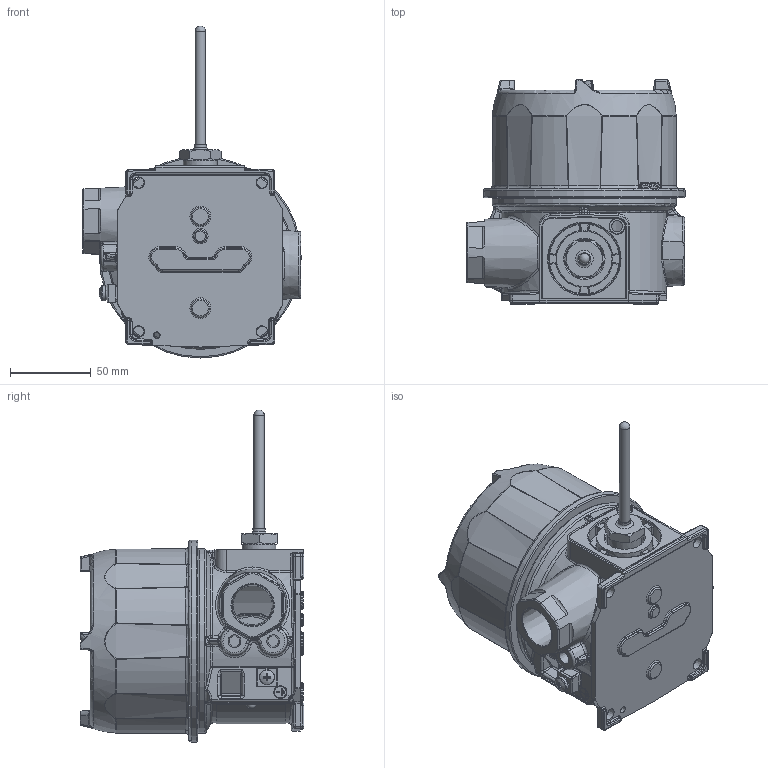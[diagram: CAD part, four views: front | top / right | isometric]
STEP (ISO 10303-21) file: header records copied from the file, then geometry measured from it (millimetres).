
FILE_DESCRIPTION (( 'STEP AP214' ), '1' );
FILE_NAME ('1X-TL1_ALLMODELS_V4.STEP', '2025-03-13T15:35:10', ( '' ), ( '' ), 'SwSTEP 2.0', 'SolidWorks 2023', '' );
FILE_SCHEMA (( 'AUTOMOTIVE_DESIGN' ));
Length unit declared in the file: inch
Products named in the file (1): 1X-TL1_ALLMODELS_V4
Bounding box: 135 x 138.46 x 205.22 mm (x, y, z)
Surface area: 103002.4 mm2 (no closed solid volume)
Topology: 0 solids, 23 shells, 1583 faces, 4837 edges, 3067 vertices
Faces by surface type: plane 645, bspline 437, cylinder 191, torus 168, cone 108, sphere 34
Full cylindrical faces by diameter (mm): 3.3 x1, 6.426 x1, 6.502 x1, 6.8 x1, 7.722 x1, 9.347 x1, 9.5 x1, 9.844 x1, 23.812 x1, 70.104 x1, 114.046 x1, 124.714 x1
Entity records: 77316 total; most frequent: CARTESIAN_POINT 38978, ORIENTED_EDGE 8060, DIRECTION 6799, EDGE_CURVE 4691, VERTEX_POINT 3037, LINE 2487, VECTOR 2487, AXIS2_PLACEMENT_3D 2156
